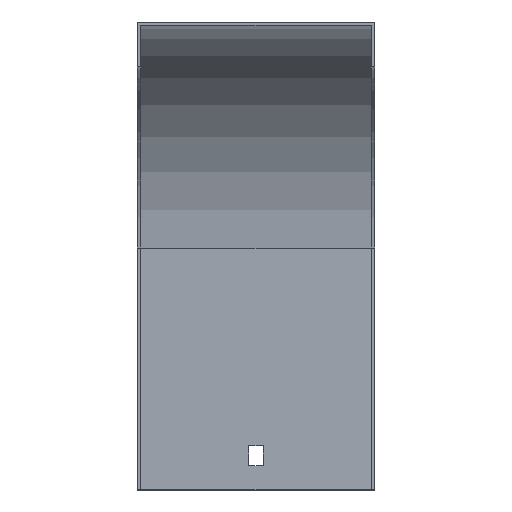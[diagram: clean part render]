
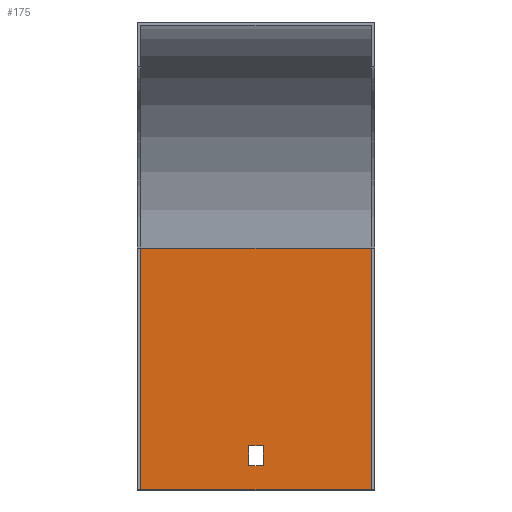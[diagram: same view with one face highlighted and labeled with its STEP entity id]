
A CAD part, top view. The second image highlights one B-rep face of the part: STEP entity #175.
In plain terms, the highlighted planar face has unit normal (0, 0, 1).
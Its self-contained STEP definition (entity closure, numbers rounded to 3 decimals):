
#10 = VECTOR ( 'NONE', #728, 1000. ) ;
#12 = CARTESIAN_POINT ( 'NONE',  ( 53.5, -190.5, -209. ) ) ;
#26 = CARTESIAN_POINT ( 'NONE',  ( 52., -210.5, -209. ) ) ;
#36 = VERTEX_POINT ( 'NONE', #26 ) ;
#39 = VERTEX_POINT ( 'NONE', #702 ) ;
#45 = EDGE_LOOP ( 'NONE', ( #220, #70, #809, #579 ) ) ;
#70 = ORIENTED_EDGE ( 'NONE', *, *, #75, .F. ) ;
#75 = EDGE_CURVE ( 'NONE', #36, #287, #465, .T. ) ;
#76 = VERTEX_POINT ( 'NONE', #458 ) ;
#112 = CARTESIAN_POINT ( 'NONE',  ( -52., -210.5, -209. ) ) ;
#115 = CARTESIAN_POINT ( 'NONE',  ( -3.25, -199.5, -209. ) ) ;
#117 = VERTEX_POINT ( 'NONE', #270 ) ;
#134 = LINE ( 'NONE', #861, #10 ) ;
#137 = DIRECTION ( 'NONE',  ( -1., 0., 0. ) ) ;
#142 = DIRECTION ( 'NONE',  ( -1., 0., 0. ) ) ;
#151 = VERTEX_POINT ( 'NONE', #476 ) ;
#165 = EDGE_CURVE ( 'NONE', #39, #451, #398, .T. ) ;
#170 = LINE ( 'NONE', #722, #308 ) ;
#175 = ADVANCED_FACE ( 'NONE', ( #813, #392 ), #265, .T. ) ;
#184 = VECTOR ( 'NONE', #389, 1000. ) ;
#199 = CARTESIAN_POINT ( 'NONE',  ( 53.5, -101.5, -209. ) ) ;
#217 = ORIENTED_EDGE ( 'NONE', *, *, #344, .T. ) ;
#220 = ORIENTED_EDGE ( 'NONE', *, *, #473, .F. ) ;
#225 = CARTESIAN_POINT ( 'NONE',  ( 3.25, -190.5, -209. ) ) ;
#247 = LINE ( 'NONE', #599, #347 ) ;
#256 = ORIENTED_EDGE ( 'NONE', *, *, #597, .T. ) ;
#265 = PLANE ( 'NONE',  #482 ) ;
#270 = CARTESIAN_POINT ( 'NONE',  ( 3.25, -199.5, -209. ) ) ;
#287 = VERTEX_POINT ( 'NONE', #112 ) ;
#289 = LINE ( 'NONE', #357, #616 ) ;
#308 = VECTOR ( 'NONE', #382, 1000. ) ;
#311 = LINE ( 'NONE', #442, #726 ) ;
#321 = DIRECTION ( 'NONE',  ( -1., 0., 0. ) ) ;
#328 = EDGE_CURVE ( 'NONE', #76, #151, #247, .T. ) ;
#344 = EDGE_CURVE ( 'NONE', #451, #117, #134, .T. ) ;
#347 = VECTOR ( 'NONE', #321, 1000. ) ;
#357 = CARTESIAN_POINT ( 'NONE',  ( -52., -101.5, -209. ) ) ;
#382 = DIRECTION ( 'NONE',  ( 0., 1., 0. ) ) ;
#389 = DIRECTION ( 'NONE',  ( 1., 0., 0. ) ) ;
#392 = FACE_BOUND ( 'NONE', #517, .T. ) ;
#398 = LINE ( 'NONE', #12, #184 ) ;
#442 = CARTESIAN_POINT ( 'NONE',  ( 52., -101.5, -209. ) ) ;
#447 = VECTOR ( 'NONE', #137, 1000. ) ;
#451 = VERTEX_POINT ( 'NONE', #225 ) ;
#458 = CARTESIAN_POINT ( 'NONE',  ( 52., -101.5, -209. ) ) ;
#465 = LINE ( 'NONE', #745, #447 ) ;
#471 = DIRECTION ( 'NONE',  ( 0., 0., 1. ) ) ;
#473 = EDGE_CURVE ( 'NONE', #287, #151, #289, .T. ) ;
#476 = CARTESIAN_POINT ( 'NONE',  ( -52., -101.5, -209. ) ) ;
#482 = AXIS2_PLACEMENT_3D ( 'NONE', #199, #471, #530 ) ;
#492 = CARTESIAN_POINT ( 'NONE',  ( 53.5, -199.5, -209. ) ) ;
#517 = EDGE_LOOP ( 'NONE', ( #256, #634, #832, #217 ) ) ;
#530 = DIRECTION ( 'NONE',  ( 1., 0., 0. ) ) ;
#555 = DIRECTION ( 'NONE',  ( 0., 1., 0. ) ) ;
#579 = ORIENTED_EDGE ( 'NONE', *, *, #328, .T. ) ;
#583 = VECTOR ( 'NONE', #142, 1000. ) ;
#597 = EDGE_CURVE ( 'NONE', #117, #824, #755, .T. ) ;
#599 = CARTESIAN_POINT ( 'NONE',  ( 53.5, -101.5, -209. ) ) ;
#616 = VECTOR ( 'NONE', #555, 1000. ) ;
#634 = ORIENTED_EDGE ( 'NONE', *, *, #808, .T. ) ;
#648 = DIRECTION ( 'NONE',  ( 0., 1., 0. ) ) ;
#702 = CARTESIAN_POINT ( 'NONE',  ( -3.25, -190.5, -209. ) ) ;
#722 = CARTESIAN_POINT ( 'NONE',  ( -3.25, -101.5, -209. ) ) ;
#726 = VECTOR ( 'NONE', #648, 1000. ) ;
#728 = DIRECTION ( 'NONE',  ( 0., -1., 0. ) ) ;
#745 = CARTESIAN_POINT ( 'NONE',  ( 53.5, -210.5, -209. ) ) ;
#755 = LINE ( 'NONE', #492, #583 ) ;
#808 = EDGE_CURVE ( 'NONE', #824, #39, #170, .T. ) ;
#809 = ORIENTED_EDGE ( 'NONE', *, *, #816, .T. ) ;
#813 = FACE_OUTER_BOUND ( 'NONE', #45, .T. ) ;
#816 = EDGE_CURVE ( 'NONE', #36, #76, #311, .T. ) ;
#824 = VERTEX_POINT ( 'NONE', #115 ) ;
#832 = ORIENTED_EDGE ( 'NONE', *, *, #165, .T. ) ;
#861 = CARTESIAN_POINT ( 'NONE',  ( 3.25, -101.5, -209. ) ) ;
